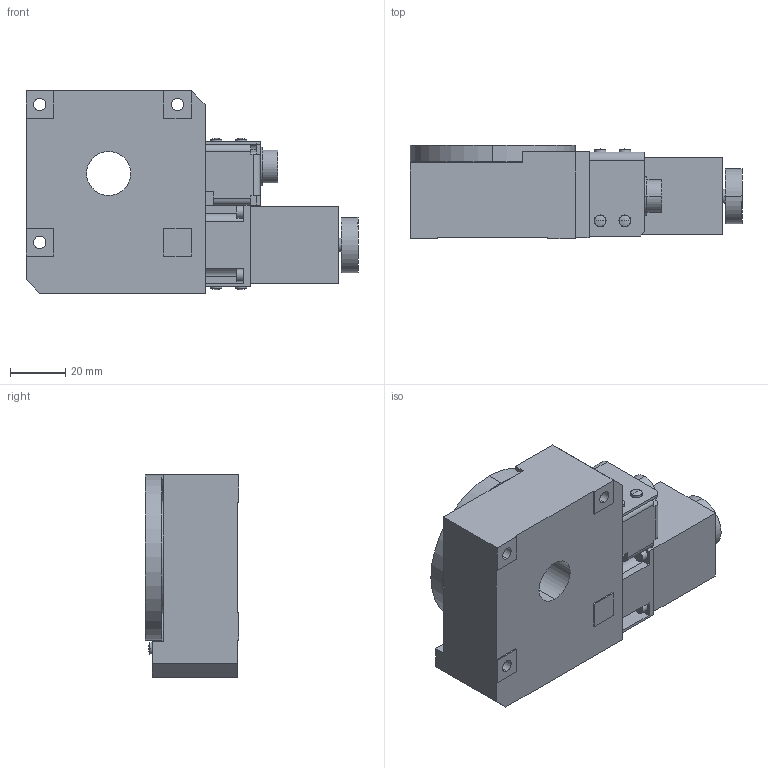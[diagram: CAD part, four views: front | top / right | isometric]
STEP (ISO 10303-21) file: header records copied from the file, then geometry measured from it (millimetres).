
FILE_DESCRIPTION (( 'STEP AP203' ), '1' );
FILE_NAME ('ARS-6036-HM.STEP', '2020-10-07T12:07:38', ( '' ), ( '' ), 'SwSTEP 2.0', 'SolidWorks 2016', '' );
FILE_SCHEMA (( 'CONFIG_CONTROL_DESIGN' ));
Length unit declared in the file: millimetre
Products named in the file (3): ARS-6036-HM-2; ARS-6036-HM; ARS-6036-HM-1
Assembly tree (2 placements, depth 2):
  ARS-6036-HM
    ARS-6036-HM-1
    ARS-6036-HM-2
Bounding box: 120.5 x 34 x 73.5 mm (x, y, z)
Volume: 185299.4 mm3; surface area: 40930.8 mm2
Topology: 2 solids, 3 shells, 225 faces, 567 edges, 374 vertices
Faces by surface type: plane 114, cylinder 87, cone 12, sphere 12
Entity records: 7162 total; most frequent: DIRECTION 1239, CARTESIAN_POINT 1177, ORIENTED_EDGE 1134, EDGE_CURVE 567, AXIS2_PLACEMENT_3D 444, VERTEX_POINT 374, VECTOR 351, LINE 351
